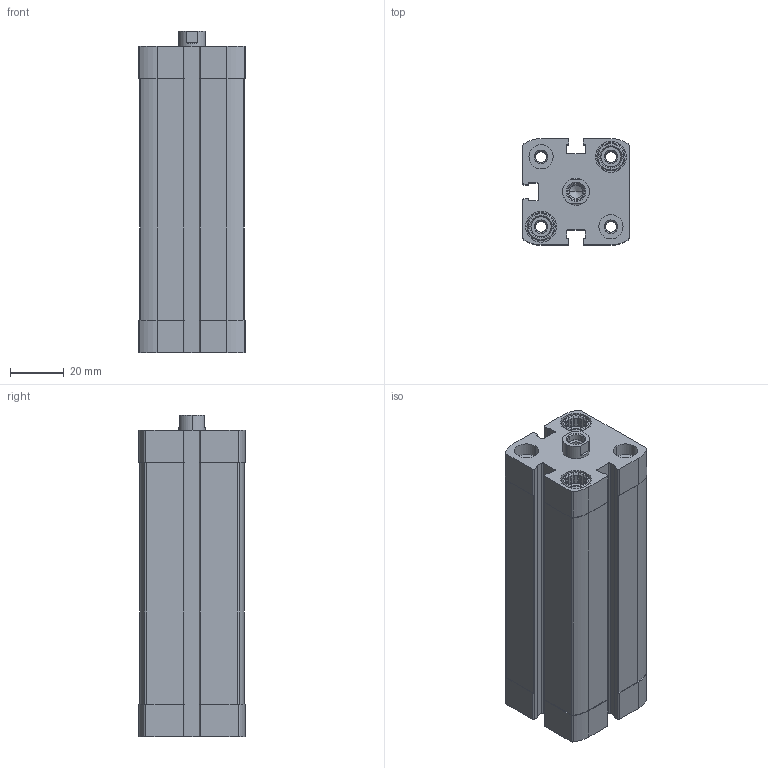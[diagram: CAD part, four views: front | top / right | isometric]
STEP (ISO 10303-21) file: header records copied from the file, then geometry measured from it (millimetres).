
FILE_DESCRIPTION (( 'STEP AP203' ), '1' );
FILE_NAME ('CCN25-75F.STEP', '2017-03-28T17:38:36', ( '' ), ( '' ), 'SwSTEP 2.0', 'SolidWorks 2016', '' );
FILE_SCHEMA (( 'CONFIG_CONTROL_DESIGN' ));
Length unit declared in the file: millimetre
Products named in the file (3): CCN-75---(Z); CCN-75_(KS); CCN25-75F
Assembly tree (2 placements, depth 2):
  CCN25-75F
    CCN-75---(Z)
    CCN-75_(KS)
Bounding box: 39.5 x 39.5 x 119.5 mm (x, y, z)
Volume: 119154.7 mm3; surface area: 46472.7 mm2
Topology: 2 solids, 2 shells, 407 faces, 1086 edges, 713 vertices
Faces by surface type: plane 231, cylinder 134, cone 42
Entity records: 13181 total; most frequent: CARTESIAN_POINT 2503, DIRECTION 2228, ORIENTED_EDGE 2168, EDGE_CURVE 1084, AXIS2_PLACEMENT_3D 830, VERTEX_POINT 713, LINE 568, VECTOR 568
